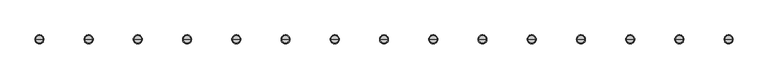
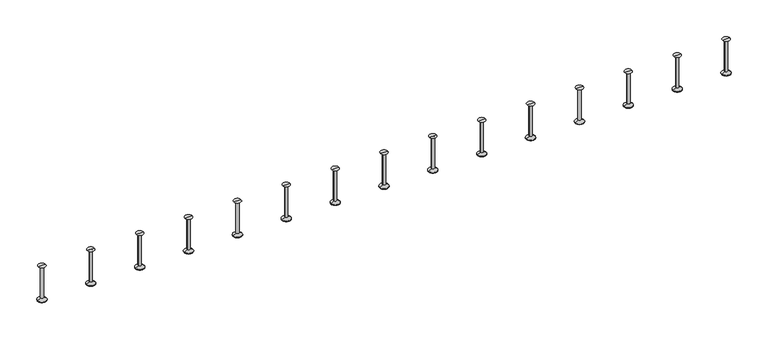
"""IFC4 building model written with IfcOpenShell, lengths in millimetres: fastener geometry, JXA(-PC) JORDAHL® toothed channels : JXA(-PC) L=6000 mm."""

from ifc_helpers import new_model, si_unit, frame, origin, place, context, project, spatial, polyline, circle_curve, source, transform, mapped, element, save
from ifc_brep_helpers import plane_surface, cylinder_surface, revolved_surface, advanced_brep


def fastener_2c23095b(model_context):
    return source(origin(), model_context, "Body", "AdvancedBrep", [
        advanced_brep(
        [(5767.3333333, 0.0, -20.0), (5781.8333333, 0.0, -20.0), (5752.8333333, 0.0, -20.0), (5749.3333333, 0.0, -166.0), (5785.3333333, 0.0, -166.0), (5767.3333333, 0.0, -166.0), (5749.3333333, 0.0, -164.0), (5785.3333333, 0.0, -164.0), (5761.3333333, 0.0, -157.0717968), (5773.3333333, 0.0, -157.0717968), (5761.3333333, 0.0, -22.5), (5773.3333333, 0.0, -22.5)],
        [
            (0, 1),
            (1, 2, circle_curve(frame((5767.3333333, 0.0, -20.0), z_axis=(0.0, 0.0, 1.0), x_axis=(1.0, 0.0, 0.0)), 14.5)),
            (2, 0),
            (2, 1, circle_curve(frame((5767.3333333, 0.0, -20.0), z_axis=(0.0, 0.0, 1.0), x_axis=(1.0, 0.0, 0.0)), 14.5)),
            (3, 4, circle_curve(frame((5767.3333333, 0.0, -166.0), z_axis=(0.0, 0.0, -1.0), x_axis=(1.0, 0.0, 0.0)), 18.0)),
            (4, 5),
            (5, 3),
            (4, 3, circle_curve(frame((5767.3333333, 0.0, -166.0), z_axis=(0.0, 0.0, -1.0), x_axis=(1.0, 0.0, 0.0)), 18.0)),
            (6, 7, circle_curve(frame((5767.3333333, 0.0, -164.0), z_axis=(0.0, 0.0, -1.0), x_axis=(1.0, 0.0, 0.0)), 18.0)),
            (7, 4),
            (3, 6),
            (7, 6, circle_curve(frame((5767.3333333, 0.0, -164.0), z_axis=(0.0, 0.0, -1.0), x_axis=(1.0, 0.0, 0.0)), 18.0)),
            (8, 9, circle_curve(frame((5767.3333333, 0.0, -157.0717968), z_axis=(0.0, 0.0, -1.0), x_axis=(1.0, 0.0, 0.0)), 6.0)),
            (9, 7),
            (6, 8),
            (9, 8, circle_curve(frame((5767.3333333, 0.0, -157.0717968), z_axis=(0.0, 0.0, -1.0), x_axis=(1.0, 0.0, 0.0)), 6.0)),
            (10, 11, circle_curve(frame((5767.3333333, 0.0, -22.5), z_axis=(0.0, 0.0, -1.0), x_axis=(1.0, 0.0, 0.0)), 6.0)),
            (11, 9),
            (8, 10),
            (11, 10, circle_curve(frame((5767.3333333, 0.0, -22.5), z_axis=(0.0, 0.0, -1.0), x_axis=(1.0, 0.0, 0.0)), 6.0)),
            (1, 11),
            (10, 2),
        ],
        [
            plane_surface(frame((5767.3333333, 0.0, -20.0), z_axis=(0.0, 0.0, 1.0), x_axis=(1.0, 0.0, 0.0))),
            plane_surface(frame((5767.3333333, 0.0, -166.0), z_axis=(0.0, 0.0, -1.0), x_axis=(1.0, 0.0, 0.0))),
            cylinder_surface(frame((5767.3333333, 0.0, 2214.3150031), z_axis=(0.0, 0.0, 1.0), x_axis=(1.0, 0.0, 0.0)), 18.0),
            revolved_surface(polyline([(5785.3333333, 0.0, -164.0), (5773.3333333, 0.0, -157.0717968)]), (5767.3333333, 0.0, 2214.3150031), (0.0, 0.0, 1.0)),
            cylinder_surface(frame((5767.3333333, 0.0, 2214.3150031), z_axis=(0.0, 0.0, 1.0), x_axis=(1.0, 0.0, 0.0)), 6.0),
            revolved_surface(polyline([(5773.3333333, 0.0, -22.5), (5781.8333333, 0.0, -20.0)]), (5767.3333333, 0.0, 2214.3150031), (0.0, 0.0, 1.0)),
        ],
        [
            (0, [[1, 2, 3]]),
            (0, [[-3, 4, -1]]),
            (1, [[5, 6, 7]]),
            (1, [[8, -7, -6]]),
            (2, [[9, 10, -5, 11]]),
            (2, [[12, -11, -8, -10]]),
            (3, [[13, 14, -9, 15]]),
            (3, [[16, -15, -12, -14]]),
            (4, [[17, 18, -13, 19]]),
            (4, [[20, -19, -16, -18]]),
            (5, [[-2, 21, -17, 22]]),
            (5, [[-4, -22, -20, -21]]),
        ],
    ),
        advanced_brep(
        [(5569.6666667, 0.0, -20.0), (5584.1666667, 0.0, -20.0), (5555.1666667, 0.0, -20.0), (5551.6666667, 0.0, -166.0), (5587.6666667, 0.0, -166.0), (5569.6666667, 0.0, -166.0), (5551.6666667, 0.0, -164.0), (5587.6666667, 0.0, -164.0), (5563.6666667, 0.0, -157.0717968), (5575.6666667, 0.0, -157.0717968), (5563.6666667, 0.0, -22.5), (5575.6666667, 0.0, -22.5)],
        [
            (0, 1),
            (1, 2, circle_curve(frame((5569.6666667, 0.0, -20.0), z_axis=(0.0, 0.0, 1.0), x_axis=(1.0, 0.0, 0.0)), 14.5)),
            (2, 0),
            (2, 1, circle_curve(frame((5569.6666667, 0.0, -20.0), z_axis=(0.0, 0.0, 1.0), x_axis=(1.0, 0.0, 0.0)), 14.5)),
            (3, 4, circle_curve(frame((5569.6666667, 0.0, -166.0), z_axis=(0.0, 0.0, -1.0), x_axis=(1.0, 0.0, 0.0)), 18.0)),
            (4, 5),
            (5, 3),
            (4, 3, circle_curve(frame((5569.6666667, 0.0, -166.0), z_axis=(0.0, 0.0, -1.0), x_axis=(1.0, 0.0, 0.0)), 18.0)),
            (6, 7, circle_curve(frame((5569.6666667, 0.0, -164.0), z_axis=(0.0, 0.0, -1.0), x_axis=(1.0, 0.0, 0.0)), 18.0)),
            (7, 4),
            (3, 6),
            (7, 6, circle_curve(frame((5569.6666667, 0.0, -164.0), z_axis=(0.0, 0.0, -1.0), x_axis=(1.0, 0.0, 0.0)), 18.0)),
            (8, 9, circle_curve(frame((5569.6666667, 0.0, -157.0717968), z_axis=(0.0, 0.0, -1.0), x_axis=(1.0, 0.0, 0.0)), 6.0)),
            (9, 7),
            (6, 8),
            (9, 8, circle_curve(frame((5569.6666667, 0.0, -157.0717968), z_axis=(0.0, 0.0, -1.0), x_axis=(1.0, 0.0, 0.0)), 6.0)),
            (10, 11, circle_curve(frame((5569.6666667, 0.0, -22.5), z_axis=(0.0, 0.0, -1.0), x_axis=(1.0, 0.0, 0.0)), 6.0)),
            (11, 9),
            (8, 10),
            (11, 10, circle_curve(frame((5569.6666667, 0.0, -22.5), z_axis=(0.0, 0.0, -1.0), x_axis=(1.0, 0.0, 0.0)), 6.0)),
            (1, 11),
            (10, 2),
        ],
        [
            plane_surface(frame((5569.6666667, 0.0, -20.0), z_axis=(0.0, 0.0, 1.0), x_axis=(1.0, 0.0, 0.0))),
            plane_surface(frame((5569.6666667, 0.0, -166.0), z_axis=(0.0, 0.0, -1.0), x_axis=(1.0, 0.0, 0.0))),
            cylinder_surface(frame((5569.6666667, 0.0, 2214.3150031), z_axis=(0.0, 0.0, 1.0), x_axis=(1.0, 0.0, 0.0)), 18.0),
            revolved_surface(polyline([(5587.6666667, 0.0, -164.0), (5575.6666667, 0.0, -157.0717968)]), (5569.6666667, 0.0, 2214.3150031), (0.0, 0.0, 1.0)),
            cylinder_surface(frame((5569.6666667, 0.0, 2214.3150031), z_axis=(0.0, 0.0, 1.0), x_axis=(1.0, 0.0, 0.0)), 6.0),
            revolved_surface(polyline([(5575.6666667, 0.0, -22.5), (5584.1666667, 0.0, -20.0)]), (5569.6666667, 0.0, 2214.3150031), (0.0, 0.0, 1.0)),
        ],
        [
            (0, [[1, 2, 3]]),
            (0, [[-3, 4, -1]]),
            (1, [[5, 6, 7]]),
            (1, [[8, -7, -6]]),
            (2, [[9, 10, -5, 11]]),
            (2, [[12, -11, -8, -10]]),
            (3, [[13, 14, -9, 15]]),
            (3, [[16, -15, -12, -14]]),
            (4, [[17, 18, -13, 19]]),
            (4, [[20, -19, -16, -18]]),
            (5, [[-2, 21, -17, 22]]),
            (5, [[-4, -22, -20, -21]]),
        ],
    ),
        advanced_brep(
        [(5372.0, 0.0, -20.0), (5386.5, 0.0, -20.0), (5357.5, 0.0, -20.0), (5354.0, 0.0, -166.0), (5390.0, 0.0, -166.0), (5372.0, 0.0, -166.0), (5354.0, 0.0, -164.0), (5390.0, 0.0, -164.0), (5366.0, 0.0, -157.0717968), (5378.0, 0.0, -157.0717968), (5366.0, 0.0, -22.5), (5378.0, 0.0, -22.5)],
        [
            (0, 1),
            (1, 2, circle_curve(frame((5372.0, 0.0, -20.0), z_axis=(0.0, 0.0, 1.0), x_axis=(1.0, 0.0, 0.0)), 14.5)),
            (2, 0),
            (2, 1, circle_curve(frame((5372.0, 0.0, -20.0), z_axis=(0.0, 0.0, 1.0), x_axis=(1.0, 0.0, 0.0)), 14.5)),
            (3, 4, circle_curve(frame((5372.0, 0.0, -166.0), z_axis=(0.0, 0.0, -1.0), x_axis=(1.0, 0.0, 0.0)), 18.0)),
            (4, 5),
            (5, 3),
            (4, 3, circle_curve(frame((5372.0, 0.0, -166.0), z_axis=(0.0, 0.0, -1.0), x_axis=(1.0, 0.0, 0.0)), 18.0)),
            (6, 7, circle_curve(frame((5372.0, 0.0, -164.0), z_axis=(0.0, 0.0, -1.0), x_axis=(1.0, 0.0, 0.0)), 18.0)),
            (7, 4),
            (3, 6),
            (7, 6, circle_curve(frame((5372.0, 0.0, -164.0), z_axis=(0.0, 0.0, -1.0), x_axis=(1.0, 0.0, 0.0)), 18.0)),
            (8, 9, circle_curve(frame((5372.0, 0.0, -157.0717968), z_axis=(0.0, 0.0, -1.0), x_axis=(1.0, 0.0, 0.0)), 6.0)),
            (9, 7),
            (6, 8),
            (9, 8, circle_curve(frame((5372.0, 0.0, -157.0717968), z_axis=(0.0, 0.0, -1.0), x_axis=(1.0, 0.0, 0.0)), 6.0)),
            (10, 11, circle_curve(frame((5372.0, 0.0, -22.5), z_axis=(0.0, 0.0, -1.0), x_axis=(1.0, 0.0, 0.0)), 6.0)),
            (11, 9),
            (8, 10),
            (11, 10, circle_curve(frame((5372.0, 0.0, -22.5), z_axis=(0.0, 0.0, -1.0), x_axis=(1.0, 0.0, 0.0)), 6.0)),
            (1, 11),
            (10, 2),
        ],
        [
            plane_surface(frame((5372.0, 0.0, -20.0), z_axis=(0.0, 0.0, 1.0), x_axis=(1.0, 0.0, 0.0))),
            plane_surface(frame((5372.0, 0.0, -166.0), z_axis=(0.0, 0.0, -1.0), x_axis=(1.0, 0.0, 0.0))),
            cylinder_surface(frame((5372.0, 0.0, 2214.3150031), z_axis=(0.0, 0.0, 1.0), x_axis=(1.0, 0.0, 0.0)), 18.0),
            revolved_surface(polyline([(5390.0, 0.0, -164.0), (5378.0, 0.0, -157.0717968)]), (5372.0, 0.0, 2214.3150031), (0.0, 0.0, 1.0)),
            cylinder_surface(frame((5372.0, 0.0, 2214.3150031), z_axis=(0.0, 0.0, 1.0), x_axis=(1.0, 0.0, 0.0)), 6.0),
            revolved_surface(polyline([(5378.0, 0.0, -22.5), (5386.5, 0.0, -20.0)]), (5372.0, 0.0, 2214.3150031), (0.0, 0.0, 1.0)),
        ],
        [
            (0, [[1, 2, 3]]),
            (0, [[-3, 4, -1]]),
            (1, [[5, 6, 7]]),
            (1, [[8, -7, -6]]),
            (2, [[9, 10, -5, 11]]),
            (2, [[12, -11, -8, -10]]),
            (3, [[13, 14, -9, 15]]),
            (3, [[16, -15, -12, -14]]),
            (4, [[17, 18, -13, 19]]),
            (4, [[20, -19, -16, -18]]),
            (5, [[-2, 21, -17, 22]]),
            (5, [[-4, -22, -20, -21]]),
        ],
    ),
        advanced_brep(
        [(5174.3333333, 0.0, -20.0), (5188.8333333, 0.0, -20.0), (5159.8333333, 0.0, -20.0), (5156.3333333, 0.0, -166.0), (5192.3333333, 0.0, -166.0), (5174.3333333, 0.0, -166.0), (5156.3333333, 0.0, -164.0), (5192.3333333, 0.0, -164.0), (5168.3333333, 0.0, -157.0717968), (5180.3333333, 0.0, -157.0717968), (5168.3333333, 0.0, -22.5), (5180.3333333, 0.0, -22.5)],
        [
            (0, 1),
            (1, 2, circle_curve(frame((5174.3333333, 0.0, -20.0), z_axis=(0.0, 0.0, 1.0), x_axis=(1.0, 0.0, 0.0)), 14.5)),
            (2, 0),
            (2, 1, circle_curve(frame((5174.3333333, 0.0, -20.0), z_axis=(0.0, 0.0, 1.0), x_axis=(1.0, 0.0, 0.0)), 14.5)),
            (3, 4, circle_curve(frame((5174.3333333, 0.0, -166.0), z_axis=(0.0, 0.0, -1.0), x_axis=(1.0, 0.0, 0.0)), 18.0)),
            (4, 5),
            (5, 3),
            (4, 3, circle_curve(frame((5174.3333333, 0.0, -166.0), z_axis=(0.0, 0.0, -1.0), x_axis=(1.0, 0.0, 0.0)), 18.0)),
            (6, 7, circle_curve(frame((5174.3333333, 0.0, -164.0), z_axis=(0.0, 0.0, -1.0), x_axis=(1.0, 0.0, 0.0)), 18.0)),
            (7, 4),
            (3, 6),
            (7, 6, circle_curve(frame((5174.3333333, 0.0, -164.0), z_axis=(0.0, 0.0, -1.0), x_axis=(1.0, 0.0, 0.0)), 18.0)),
            (8, 9, circle_curve(frame((5174.3333333, 0.0, -157.0717968), z_axis=(0.0, 0.0, -1.0), x_axis=(1.0, 0.0, 0.0)), 6.0)),
            (9, 7),
            (6, 8),
            (9, 8, circle_curve(frame((5174.3333333, 0.0, -157.0717968), z_axis=(0.0, 0.0, -1.0), x_axis=(1.0, 0.0, 0.0)), 6.0)),
            (10, 11, circle_curve(frame((5174.3333333, 0.0, -22.5), z_axis=(0.0, 0.0, -1.0), x_axis=(1.0, 0.0, 0.0)), 6.0)),
            (11, 9),
            (8, 10),
            (11, 10, circle_curve(frame((5174.3333333, 0.0, -22.5), z_axis=(0.0, 0.0, -1.0), x_axis=(1.0, 0.0, 0.0)), 6.0)),
            (1, 11),
            (10, 2),
        ],
        [
            plane_surface(frame((5174.3333333, 0.0, -20.0), z_axis=(0.0, 0.0, 1.0), x_axis=(1.0, 0.0, 0.0))),
            plane_surface(frame((5174.3333333, 0.0, -166.0), z_axis=(0.0, 0.0, -1.0), x_axis=(1.0, 0.0, 0.0))),
            cylinder_surface(frame((5174.3333333, 0.0, 2214.3150031), z_axis=(0.0, 0.0, 1.0), x_axis=(1.0, 0.0, 0.0)), 18.0),
            revolved_surface(polyline([(5192.3333333, 0.0, -164.0), (5180.3333333, 0.0, -157.0717968)]), (5174.3333333, 0.0, 2214.3150031), (0.0, 0.0, 1.0)),
            cylinder_surface(frame((5174.3333333, 0.0, 2214.3150031), z_axis=(0.0, 0.0, 1.0), x_axis=(1.0, 0.0, 0.0)), 6.0),
            revolved_surface(polyline([(5180.3333333, 0.0, -22.5), (5188.8333333, 0.0, -20.0)]), (5174.3333333, 0.0, 2214.3150031), (0.0, 0.0, 1.0)),
        ],
        [
            (0, [[1, 2, 3]]),
            (0, [[-3, 4, -1]]),
            (1, [[5, 6, 7]]),
            (1, [[8, -7, -6]]),
            (2, [[9, 10, -5, 11]]),
            (2, [[12, -11, -8, -10]]),
            (3, [[13, 14, -9, 15]]),
            (3, [[16, -15, -12, -14]]),
            (4, [[17, 18, -13, 19]]),
            (4, [[20, -19, -16, -18]]),
            (5, [[-2, 21, -17, 22]]),
            (5, [[-4, -22, -20, -21]]),
        ],
    ),
        advanced_brep(
        [(4976.6666667, 0.0, -20.0), (4991.1666667, 0.0, -20.0), (4962.1666667, 0.0, -20.0), (4958.6666667, 0.0, -166.0), (4994.6666667, 0.0, -166.0), (4976.6666667, 0.0, -166.0), (4958.6666667, 0.0, -164.0), (4994.6666667, 0.0, -164.0), (4970.6666667, 0.0, -157.0717968), (4982.6666667, 0.0, -157.0717968), (4970.6666667, 0.0, -22.5), (4982.6666667, 0.0, -22.5)],
        [
            (0, 1),
            (1, 2, circle_curve(frame((4976.6666667, 0.0, -20.0), z_axis=(0.0, 0.0, 1.0), x_axis=(1.0, 0.0, 0.0)), 14.5)),
            (2, 0),
            (2, 1, circle_curve(frame((4976.6666667, 0.0, -20.0), z_axis=(0.0, 0.0, 1.0), x_axis=(1.0, 0.0, 0.0)), 14.5)),
            (3, 4, circle_curve(frame((4976.6666667, 0.0, -166.0), z_axis=(0.0, 0.0, -1.0), x_axis=(1.0, 0.0, 0.0)), 18.0)),
            (4, 5),
            (5, 3),
            (4, 3, circle_curve(frame((4976.6666667, 0.0, -166.0), z_axis=(0.0, 0.0, -1.0), x_axis=(1.0, 0.0, 0.0)), 18.0)),
            (6, 7, circle_curve(frame((4976.6666667, 0.0, -164.0), z_axis=(0.0, 0.0, -1.0), x_axis=(1.0, 0.0, 0.0)), 18.0)),
            (7, 4),
            (3, 6),
            (7, 6, circle_curve(frame((4976.6666667, 0.0, -164.0), z_axis=(0.0, 0.0, -1.0), x_axis=(1.0, 0.0, 0.0)), 18.0)),
            (8, 9, circle_curve(frame((4976.6666667, 0.0, -157.0717968), z_axis=(0.0, 0.0, -1.0), x_axis=(1.0, 0.0, 0.0)), 6.0)),
            (9, 7),
            (6, 8),
            (9, 8, circle_curve(frame((4976.6666667, 0.0, -157.0717968), z_axis=(0.0, 0.0, -1.0), x_axis=(1.0, 0.0, 0.0)), 6.0)),
            (10, 11, circle_curve(frame((4976.6666667, 0.0, -22.5), z_axis=(0.0, 0.0, -1.0), x_axis=(1.0, 0.0, 0.0)), 6.0)),
            (11, 9),
            (8, 10),
            (11, 10, circle_curve(frame((4976.6666667, 0.0, -22.5), z_axis=(0.0, 0.0, -1.0), x_axis=(1.0, 0.0, 0.0)), 6.0)),
            (1, 11),
            (10, 2),
        ],
        [
            plane_surface(frame((4976.6666667, 0.0, -20.0), z_axis=(0.0, 0.0, 1.0), x_axis=(1.0, 0.0, 0.0))),
            plane_surface(frame((4976.6666667, 0.0, -166.0), z_axis=(0.0, 0.0, -1.0), x_axis=(1.0, 0.0, 0.0))),
            cylinder_surface(frame((4976.6666667, 0.0, 2214.3150031), z_axis=(0.0, 0.0, 1.0), x_axis=(1.0, 0.0, 0.0)), 18.0),
            revolved_surface(polyline([(4994.6666667, 0.0, -164.0), (4982.6666667, 0.0, -157.0717968)]), (4976.6666667, 0.0, 2214.3150031), (0.0, 0.0, 1.0)),
            cylinder_surface(frame((4976.6666667, 0.0, 2214.3150031), z_axis=(0.0, 0.0, 1.0), x_axis=(1.0, 0.0, 0.0)), 6.0),
            revolved_surface(polyline([(4982.6666667, 0.0, -22.5), (4991.1666667, 0.0, -20.0)]), (4976.6666667, 0.0, 2214.3150031), (0.0, 0.0, 1.0)),
        ],
        [
            (0, [[1, 2, 3]]),
            (0, [[-3, 4, -1]]),
            (1, [[5, 6, 7]]),
            (1, [[8, -7, -6]]),
            (2, [[9, 10, -5, 11]]),
            (2, [[12, -11, -8, -10]]),
            (3, [[13, 14, -9, 15]]),
            (3, [[16, -15, -12, -14]]),
            (4, [[17, 18, -13, 19]]),
            (4, [[20, -19, -16, -18]]),
            (5, [[-2, 21, -17, 22]]),
            (5, [[-4, -22, -20, -21]]),
        ],
    ),
        advanced_brep(
        [(4779.0, 0.0, -20.0), (4793.5, 0.0, -20.0), (4764.5, 0.0, -20.0), (4761.0, 0.0, -166.0), (4797.0, 0.0, -166.0), (4779.0, 0.0, -166.0), (4761.0, 0.0, -164.0), (4797.0, 0.0, -164.0), (4773.0, 0.0, -157.0717968), (4785.0, 0.0, -157.0717968), (4773.0, 0.0, -22.5), (4785.0, 0.0, -22.5)],
        [
            (0, 1),
            (1, 2, circle_curve(frame((4779.0, 0.0, -20.0), z_axis=(0.0, 0.0, 1.0), x_axis=(1.0, 0.0, 0.0)), 14.5)),
            (2, 0),
            (2, 1, circle_curve(frame((4779.0, 0.0, -20.0), z_axis=(0.0, 0.0, 1.0), x_axis=(1.0, 0.0, 0.0)), 14.5)),
            (3, 4, circle_curve(frame((4779.0, 0.0, -166.0), z_axis=(0.0, 0.0, -1.0), x_axis=(1.0, 0.0, 0.0)), 18.0)),
            (4, 5),
            (5, 3),
            (4, 3, circle_curve(frame((4779.0, 0.0, -166.0), z_axis=(0.0, 0.0, -1.0), x_axis=(1.0, 0.0, 0.0)), 18.0)),
            (6, 7, circle_curve(frame((4779.0, 0.0, -164.0), z_axis=(0.0, 0.0, -1.0), x_axis=(1.0, 0.0, 0.0)), 18.0)),
            (7, 4),
            (3, 6),
            (7, 6, circle_curve(frame((4779.0, 0.0, -164.0), z_axis=(0.0, 0.0, -1.0), x_axis=(1.0, 0.0, 0.0)), 18.0)),
            (8, 9, circle_curve(frame((4779.0, 0.0, -157.0717968), z_axis=(0.0, 0.0, -1.0), x_axis=(1.0, 0.0, 0.0)), 6.0)),
            (9, 7),
            (6, 8),
            (9, 8, circle_curve(frame((4779.0, 0.0, -157.0717968), z_axis=(0.0, 0.0, -1.0), x_axis=(1.0, 0.0, 0.0)), 6.0)),
            (10, 11, circle_curve(frame((4779.0, 0.0, -22.5), z_axis=(0.0, 0.0, -1.0), x_axis=(1.0, 0.0, 0.0)), 6.0)),
            (11, 9),
            (8, 10),
            (11, 10, circle_curve(frame((4779.0, 0.0, -22.5), z_axis=(0.0, 0.0, -1.0), x_axis=(1.0, 0.0, 0.0)), 6.0)),
            (1, 11),
            (10, 2),
        ],
        [
            plane_surface(frame((4779.0, 0.0, -20.0), z_axis=(0.0, 0.0, 1.0), x_axis=(1.0, 0.0, 0.0))),
            plane_surface(frame((4779.0, 0.0, -166.0), z_axis=(0.0, 0.0, -1.0), x_axis=(1.0, 0.0, 0.0))),
            cylinder_surface(frame((4779.0, 0.0, 2214.3150031), z_axis=(0.0, 0.0, 1.0), x_axis=(1.0, 0.0, 0.0)), 18.0),
            revolved_surface(polyline([(4797.0, 0.0, -164.0), (4785.0, 0.0, -157.0717968)]), (4779.0, 0.0, 2214.3150031), (0.0, 0.0, 1.0)),
            cylinder_surface(frame((4779.0, 0.0, 2214.3150031), z_axis=(0.0, 0.0, 1.0), x_axis=(1.0, 0.0, 0.0)), 6.0),
            revolved_surface(polyline([(4785.0, 0.0, -22.5), (4793.5, 0.0, -20.0)]), (4779.0, 0.0, 2214.3150031), (0.0, 0.0, 1.0)),
        ],
        [
            (0, [[1, 2, 3]]),
            (0, [[-3, 4, -1]]),
            (1, [[5, 6, 7]]),
            (1, [[8, -7, -6]]),
            (2, [[9, 10, -5, 11]]),
            (2, [[12, -11, -8, -10]]),
            (3, [[13, 14, -9, 15]]),
            (3, [[16, -15, -12, -14]]),
            (4, [[17, 18, -13, 19]]),
            (4, [[20, -19, -16, -18]]),
            (5, [[-2, 21, -17, 22]]),
            (5, [[-4, -22, -20, -21]]),
        ],
    ),
        advanced_brep(
        [(4581.3333333, 0.0, -20.0), (4595.8333333, 0.0, -20.0), (4566.8333333, 0.0, -20.0), (4563.3333333, 0.0, -166.0), (4599.3333333, 0.0, -166.0), (4581.3333333, 0.0, -166.0), (4563.3333333, 0.0, -164.0), (4599.3333333, 0.0, -164.0), (4575.3333333, 0.0, -157.0717968), (4587.3333333, 0.0, -157.0717968), (4575.3333333, 0.0, -22.5), (4587.3333333, 0.0, -22.5)],
        [
            (0, 1),
            (1, 2, circle_curve(frame((4581.3333333, 0.0, -20.0), z_axis=(0.0, 0.0, 1.0), x_axis=(1.0, 0.0, 0.0)), 14.5)),
            (2, 0),
            (2, 1, circle_curve(frame((4581.3333333, 0.0, -20.0), z_axis=(0.0, 0.0, 1.0), x_axis=(1.0, 0.0, 0.0)), 14.5)),
            (3, 4, circle_curve(frame((4581.3333333, 0.0, -166.0), z_axis=(0.0, 0.0, -1.0), x_axis=(1.0, 0.0, 0.0)), 18.0)),
            (4, 5),
            (5, 3),
            (4, 3, circle_curve(frame((4581.3333333, 0.0, -166.0), z_axis=(0.0, 0.0, -1.0), x_axis=(1.0, 0.0, 0.0)), 18.0)),
            (6, 7, circle_curve(frame((4581.3333333, 0.0, -164.0), z_axis=(0.0, 0.0, -1.0), x_axis=(1.0, 0.0, 0.0)), 18.0)),
            (7, 4),
            (3, 6),
            (7, 6, circle_curve(frame((4581.3333333, 0.0, -164.0), z_axis=(0.0, 0.0, -1.0), x_axis=(1.0, 0.0, 0.0)), 18.0)),
            (8, 9, circle_curve(frame((4581.3333333, 0.0, -157.0717968), z_axis=(0.0, 0.0, -1.0), x_axis=(1.0, 0.0, 0.0)), 6.0)),
            (9, 7),
            (6, 8),
            (9, 8, circle_curve(frame((4581.3333333, 0.0, -157.0717968), z_axis=(0.0, 0.0, -1.0), x_axis=(1.0, 0.0, 0.0)), 6.0)),
            (10, 11, circle_curve(frame((4581.3333333, 0.0, -22.5), z_axis=(0.0, 0.0, -1.0), x_axis=(1.0, 0.0, 0.0)), 6.0)),
            (11, 9),
            (8, 10),
            (11, 10, circle_curve(frame((4581.3333333, 0.0, -22.5), z_axis=(0.0, 0.0, -1.0), x_axis=(1.0, 0.0, 0.0)), 6.0)),
            (1, 11),
            (10, 2),
        ],
        [
            plane_surface(frame((4581.3333333, 0.0, -20.0), z_axis=(0.0, 0.0, 1.0), x_axis=(1.0, 0.0, 0.0))),
            plane_surface(frame((4581.3333333, 0.0, -166.0), z_axis=(0.0, 0.0, -1.0), x_axis=(1.0, 0.0, 0.0))),
            cylinder_surface(frame((4581.3333333, 0.0, 2214.3150031), z_axis=(0.0, 0.0, 1.0), x_axis=(1.0, 0.0, 0.0)), 18.0),
            revolved_surface(polyline([(4599.3333333, 0.0, -164.0), (4587.3333333, 0.0, -157.0717968)]), (4581.3333333, 0.0, 2214.3150031), (0.0, 0.0, 1.0)),
            cylinder_surface(frame((4581.3333333, 0.0, 2214.3150031), z_axis=(0.0, 0.0, 1.0), x_axis=(1.0, 0.0, 0.0)), 6.0),
            revolved_surface(polyline([(4587.3333333, 0.0, -22.5), (4595.8333333, 0.0, -20.0)]), (4581.3333333, 0.0, 2214.3150031), (0.0, 0.0, 1.0)),
        ],
        [
            (0, [[1, 2, 3]]),
            (0, [[-3, 4, -1]]),
            (1, [[5, 6, 7]]),
            (1, [[8, -7, -6]]),
            (2, [[9, 10, -5, 11]]),
            (2, [[12, -11, -8, -10]]),
            (3, [[13, 14, -9, 15]]),
            (3, [[16, -15, -12, -14]]),
            (4, [[17, 18, -13, 19]]),
            (4, [[20, -19, -16, -18]]),
            (5, [[-2, 21, -17, 22]]),
            (5, [[-4, -22, -20, -21]]),
        ],
    ),
        advanced_brep(
        [(4383.6666667, 0.0, -20.0), (4398.1666667, 0.0, -20.0), (4369.1666667, 0.0, -20.0), (4365.6666667, 0.0, -166.0), (4401.6666667, 0.0, -166.0), (4383.6666667, 0.0, -166.0), (4365.6666667, 0.0, -164.0), (4401.6666667, 0.0, -164.0), (4377.6666667, 0.0, -157.0717968), (4389.6666667, 0.0, -157.0717968), (4377.6666667, 0.0, -22.5), (4389.6666667, 0.0, -22.5)],
        [
            (0, 1),
            (1, 2, circle_curve(frame((4383.6666667, 0.0, -20.0), z_axis=(0.0, 0.0, 1.0), x_axis=(1.0, 0.0, 0.0)), 14.5)),
            (2, 0),
            (2, 1, circle_curve(frame((4383.6666667, 0.0, -20.0), z_axis=(0.0, 0.0, 1.0), x_axis=(1.0, 0.0, 0.0)), 14.5)),
            (3, 4, circle_curve(frame((4383.6666667, 0.0, -166.0), z_axis=(0.0, 0.0, -1.0), x_axis=(1.0, 0.0, 0.0)), 18.0)),
            (4, 5),
            (5, 3),
            (4, 3, circle_curve(frame((4383.6666667, 0.0, -166.0), z_axis=(0.0, 0.0, -1.0), x_axis=(1.0, 0.0, 0.0)), 18.0)),
            (6, 7, circle_curve(frame((4383.6666667, 0.0, -164.0), z_axis=(0.0, 0.0, -1.0), x_axis=(1.0, 0.0, 0.0)), 18.0)),
            (7, 4),
            (3, 6),
            (7, 6, circle_curve(frame((4383.6666667, 0.0, -164.0), z_axis=(0.0, 0.0, -1.0), x_axis=(1.0, 0.0, 0.0)), 18.0)),
            (8, 9, circle_curve(frame((4383.6666667, 0.0, -157.0717968), z_axis=(0.0, 0.0, -1.0), x_axis=(1.0, 0.0, 0.0)), 6.0)),
            (9, 7),
            (6, 8),
            (9, 8, circle_curve(frame((4383.6666667, 0.0, -157.0717968), z_axis=(0.0, 0.0, -1.0), x_axis=(1.0, 0.0, 0.0)), 6.0)),
            (10, 11, circle_curve(frame((4383.6666667, 0.0, -22.5), z_axis=(0.0, 0.0, -1.0), x_axis=(1.0, 0.0, 0.0)), 6.0)),
            (11, 9),
            (8, 10),
            (11, 10, circle_curve(frame((4383.6666667, 0.0, -22.5), z_axis=(0.0, 0.0, -1.0), x_axis=(1.0, 0.0, 0.0)), 6.0)),
            (1, 11),
            (10, 2),
        ],
        [
            plane_surface(frame((4383.6666667, 0.0, -20.0), z_axis=(0.0, 0.0, 1.0), x_axis=(1.0, 0.0, 0.0))),
            plane_surface(frame((4383.6666667, 0.0, -166.0), z_axis=(0.0, 0.0, -1.0), x_axis=(1.0, 0.0, 0.0))),
            cylinder_surface(frame((4383.6666667, 0.0, 2214.3150031), z_axis=(0.0, 0.0, 1.0), x_axis=(1.0, 0.0, 0.0)), 18.0),
            revolved_surface(polyline([(4401.6666667, 0.0, -164.0), (4389.6666667, 0.0, -157.0717968)]), (4383.6666667, 0.0, 2214.3150031), (0.0, 0.0, 1.0)),
            cylinder_surface(frame((4383.6666667, 0.0, 2214.3150031), z_axis=(0.0, 0.0, 1.0), x_axis=(1.0, 0.0, 0.0)), 6.0),
            revolved_surface(polyline([(4389.6666667, 0.0, -22.5), (4398.1666667, 0.0, -20.0)]), (4383.6666667, 0.0, 2214.3150031), (0.0, 0.0, 1.0)),
        ],
        [
            (0, [[1, 2, 3]]),
            (0, [[-3, 4, -1]]),
            (1, [[5, 6, 7]]),
            (1, [[8, -7, -6]]),
            (2, [[9, 10, -5, 11]]),
            (2, [[12, -11, -8, -10]]),
            (3, [[13, 14, -9, 15]]),
            (3, [[16, -15, -12, -14]]),
            (4, [[17, 18, -13, 19]]),
            (4, [[20, -19, -16, -18]]),
            (5, [[-2, 21, -17, 22]]),
            (5, [[-4, -22, -20, -21]]),
        ],
    ),
        advanced_brep(
        [(4186.0, 0.0, -20.0), (4200.5, 0.0, -20.0), (4171.5, 0.0, -20.0), (4168.0, 0.0, -166.0), (4204.0, 0.0, -166.0), (4186.0, 0.0, -166.0), (4168.0, 0.0, -164.0), (4204.0, 0.0, -164.0), (4180.0, 0.0, -157.0717968), (4192.0, 0.0, -157.0717968), (4180.0, 0.0, -22.5), (4192.0, 0.0, -22.5)],
        [
            (0, 1),
            (1, 2, circle_curve(frame((4186.0, 0.0, -20.0), z_axis=(0.0, 0.0, 1.0), x_axis=(1.0, 0.0, 0.0)), 14.5)),
            (2, 0),
            (2, 1, circle_curve(frame((4186.0, 0.0, -20.0), z_axis=(0.0, 0.0, 1.0), x_axis=(1.0, 0.0, 0.0)), 14.5)),
            (3, 4, circle_curve(frame((4186.0, 0.0, -166.0), z_axis=(0.0, 0.0, -1.0), x_axis=(1.0, 0.0, 0.0)), 18.0)),
            (4, 5),
            (5, 3),
            (4, 3, circle_curve(frame((4186.0, 0.0, -166.0), z_axis=(0.0, 0.0, -1.0), x_axis=(1.0, 0.0, 0.0)), 18.0)),
            (6, 7, circle_curve(frame((4186.0, 0.0, -164.0), z_axis=(0.0, 0.0, -1.0), x_axis=(1.0, 0.0, 0.0)), 18.0)),
            (7, 4),
            (3, 6),
            (7, 6, circle_curve(frame((4186.0, 0.0, -164.0), z_axis=(0.0, 0.0, -1.0), x_axis=(1.0, 0.0, 0.0)), 18.0)),
            (8, 9, circle_curve(frame((4186.0, 0.0, -157.0717968), z_axis=(0.0, 0.0, -1.0), x_axis=(1.0, 0.0, 0.0)), 6.0)),
            (9, 7),
            (6, 8),
            (9, 8, circle_curve(frame((4186.0, 0.0, -157.0717968), z_axis=(0.0, 0.0, -1.0), x_axis=(1.0, 0.0, 0.0)), 6.0)),
            (10, 11, circle_curve(frame((4186.0, 0.0, -22.5), z_axis=(0.0, 0.0, -1.0), x_axis=(1.0, 0.0, 0.0)), 6.0)),
            (11, 9),
            (8, 10),
            (11, 10, circle_curve(frame((4186.0, 0.0, -22.5), z_axis=(0.0, 0.0, -1.0), x_axis=(1.0, 0.0, 0.0)), 6.0)),
            (1, 11),
            (10, 2),
        ],
        [
            plane_surface(frame((4186.0, 0.0, -20.0), z_axis=(0.0, 0.0, 1.0), x_axis=(1.0, 0.0, 0.0))),
            plane_surface(frame((4186.0, 0.0, -166.0), z_axis=(0.0, 0.0, -1.0), x_axis=(1.0, 0.0, 0.0))),
            cylinder_surface(frame((4186.0, 0.0, 2214.3150031), z_axis=(0.0, 0.0, 1.0), x_axis=(1.0, 0.0, 0.0)), 18.0),
            revolved_surface(polyline([(4204.0, 0.0, -164.0), (4192.0, 0.0, -157.0717968)]), (4186.0, 0.0, 2214.3150031), (0.0, 0.0, 1.0)),
            cylinder_surface(frame((4186.0, 0.0, 2214.3150031), z_axis=(0.0, 0.0, 1.0), x_axis=(1.0, 0.0, 0.0)), 6.0),
            revolved_surface(polyline([(4192.0, 0.0, -22.5), (4200.5, 0.0, -20.0)]), (4186.0, 0.0, 2214.3150031), (0.0, 0.0, 1.0)),
        ],
        [
            (0, [[1, 2, 3]]),
            (0, [[-3, 4, -1]]),
            (1, [[5, 6, 7]]),
            (1, [[8, -7, -6]]),
            (2, [[9, 10, -5, 11]]),
            (2, [[12, -11, -8, -10]]),
            (3, [[13, 14, -9, 15]]),
            (3, [[16, -15, -12, -14]]),
            (4, [[17, 18, -13, 19]]),
            (4, [[20, -19, -16, -18]]),
            (5, [[-2, 21, -17, 22]]),
            (5, [[-4, -22, -20, -21]]),
        ],
    ),
        advanced_brep(
        [(3988.3333333, 0.0, -20.0), (4002.8333333, 0.0, -20.0), (3973.8333333, 0.0, -20.0), (3970.3333333, 0.0, -166.0), (4006.3333333, 0.0, -166.0), (3988.3333333, 0.0, -166.0), (3970.3333333, 0.0, -164.0), (4006.3333333, 0.0, -164.0), (3982.3333333, 0.0, -157.0717968), (3994.3333333, 0.0, -157.0717968), (3982.3333333, 0.0, -22.5), (3994.3333333, 0.0, -22.5)],
        [
            (0, 1),
            (1, 2, circle_curve(frame((3988.3333333, 0.0, -20.0), z_axis=(0.0, 0.0, 1.0), x_axis=(1.0, 0.0, 0.0)), 14.5)),
            (2, 0),
            (2, 1, circle_curve(frame((3988.3333333, 0.0, -20.0), z_axis=(0.0, 0.0, 1.0), x_axis=(1.0, 0.0, 0.0)), 14.5)),
            (3, 4, circle_curve(frame((3988.3333333, 0.0, -166.0), z_axis=(0.0, 0.0, -1.0), x_axis=(1.0, 0.0, 0.0)), 18.0)),
            (4, 5),
            (5, 3),
            (4, 3, circle_curve(frame((3988.3333333, 0.0, -166.0), z_axis=(0.0, 0.0, -1.0), x_axis=(1.0, 0.0, 0.0)), 18.0)),
            (6, 7, circle_curve(frame((3988.3333333, 0.0, -164.0), z_axis=(0.0, 0.0, -1.0), x_axis=(1.0, 0.0, 0.0)), 18.0)),
            (7, 4),
            (3, 6),
            (7, 6, circle_curve(frame((3988.3333333, 0.0, -164.0), z_axis=(0.0, 0.0, -1.0), x_axis=(1.0, 0.0, 0.0)), 18.0)),
            (8, 9, circle_curve(frame((3988.3333333, 0.0, -157.0717968), z_axis=(0.0, 0.0, -1.0), x_axis=(1.0, 0.0, 0.0)), 6.0)),
            (9, 7),
            (6, 8),
            (9, 8, circle_curve(frame((3988.3333333, 0.0, -157.0717968), z_axis=(0.0, 0.0, -1.0), x_axis=(1.0, 0.0, 0.0)), 6.0)),
            (10, 11, circle_curve(frame((3988.3333333, 0.0, -22.5), z_axis=(0.0, 0.0, -1.0), x_axis=(1.0, 0.0, 0.0)), 6.0)),
            (11, 9),
            (8, 10),
            (11, 10, circle_curve(frame((3988.3333333, 0.0, -22.5), z_axis=(0.0, 0.0, -1.0), x_axis=(1.0, 0.0, 0.0)), 6.0)),
            (1, 11),
            (10, 2),
        ],
        [
            plane_surface(frame((3988.3333333, 0.0, -20.0), z_axis=(0.0, 0.0, 1.0), x_axis=(1.0, 0.0, 0.0))),
            plane_surface(frame((3988.3333333, 0.0, -166.0), z_axis=(0.0, 0.0, -1.0), x_axis=(1.0, 0.0, 0.0))),
            cylinder_surface(frame((3988.3333333, 0.0, 2214.3150031), z_axis=(0.0, 0.0, 1.0), x_axis=(1.0, 0.0, 0.0)), 18.0),
            revolved_surface(polyline([(4006.3333333, 0.0, -164.0), (3994.3333333, 0.0, -157.0717968)]), (3988.3333333, 0.0, 2214.3150031), (0.0, 0.0, 1.0)),
            cylinder_surface(frame((3988.3333333, 0.0, 2214.3150031), z_axis=(0.0, 0.0, 1.0), x_axis=(1.0, 0.0, 0.0)), 6.0),
            revolved_surface(polyline([(3994.3333333, 0.0, -22.5), (4002.8333333, 0.0, -20.0)]), (3988.3333333, 0.0, 2214.3150031), (0.0, 0.0, 1.0)),
        ],
        [
            (0, [[1, 2, 3]]),
            (0, [[-3, 4, -1]]),
            (1, [[5, 6, 7]]),
            (1, [[8, -7, -6]]),
            (2, [[9, 10, -5, 11]]),
            (2, [[12, -11, -8, -10]]),
            (3, [[13, 14, -9, 15]]),
            (3, [[16, -15, -12, -14]]),
            (4, [[17, 18, -13, 19]]),
            (4, [[20, -19, -16, -18]]),
            (5, [[-2, 21, -17, 22]]),
            (5, [[-4, -22, -20, -21]]),
        ],
    ),
        advanced_brep(
        [(3790.6666667, 0.0, -20.0), (3805.1666667, 0.0, -20.0), (3776.1666667, 0.0, -20.0), (3772.6666667, 0.0, -166.0), (3808.6666667, 0.0, -166.0), (3790.6666667, 0.0, -166.0), (3772.6666667, 0.0, -164.0), (3808.6666667, 0.0, -164.0), (3784.6666667, 0.0, -157.0717968), (3796.6666667, 0.0, -157.0717968), (3784.6666667, 0.0, -22.5), (3796.6666667, 0.0, -22.5)],
        [
            (0, 1),
            (1, 2, circle_curve(frame((3790.6666667, 0.0, -20.0), z_axis=(0.0, 0.0, 1.0), x_axis=(1.0, 0.0, 0.0)), 14.5)),
            (2, 0),
            (2, 1, circle_curve(frame((3790.6666667, 0.0, -20.0), z_axis=(0.0, 0.0, 1.0), x_axis=(1.0, 0.0, 0.0)), 14.5)),
            (3, 4, circle_curve(frame((3790.6666667, 0.0, -166.0), z_axis=(0.0, 0.0, -1.0), x_axis=(1.0, 0.0, 0.0)), 18.0)),
            (4, 5),
            (5, 3),
            (4, 3, circle_curve(frame((3790.6666667, 0.0, -166.0), z_axis=(0.0, 0.0, -1.0), x_axis=(1.0, 0.0, 0.0)), 18.0)),
            (6, 7, circle_curve(frame((3790.6666667, 0.0, -164.0), z_axis=(0.0, 0.0, -1.0), x_axis=(1.0, 0.0, 0.0)), 18.0)),
            (7, 4),
            (3, 6),
            (7, 6, circle_curve(frame((3790.6666667, 0.0, -164.0), z_axis=(0.0, 0.0, -1.0), x_axis=(1.0, 0.0, 0.0)), 18.0)),
            (8, 9, circle_curve(frame((3790.6666667, 0.0, -157.0717968), z_axis=(0.0, 0.0, -1.0), x_axis=(1.0, 0.0, 0.0)), 6.0)),
            (9, 7),
            (6, 8),
            (9, 8, circle_curve(frame((3790.6666667, 0.0, -157.0717968), z_axis=(0.0, 0.0, -1.0), x_axis=(1.0, 0.0, 0.0)), 6.0)),
            (10, 11, circle_curve(frame((3790.6666667, 0.0, -22.5), z_axis=(0.0, 0.0, -1.0), x_axis=(1.0, 0.0, 0.0)), 6.0)),
            (11, 9),
            (8, 10),
            (11, 10, circle_curve(frame((3790.6666667, 0.0, -22.5), z_axis=(0.0, 0.0, -1.0), x_axis=(1.0, 0.0, 0.0)), 6.0)),
            (1, 11),
            (10, 2),
        ],
        [
            plane_surface(frame((3790.6666667, 0.0, -20.0), z_axis=(0.0, 0.0, 1.0), x_axis=(1.0, 0.0, 0.0))),
            plane_surface(frame((3790.6666667, 0.0, -166.0), z_axis=(0.0, 0.0, -1.0), x_axis=(1.0, 0.0, 0.0))),
            cylinder_surface(frame((3790.6666667, 0.0, 2214.3150031), z_axis=(0.0, 0.0, 1.0), x_axis=(1.0, 0.0, 0.0)), 18.0),
            revolved_surface(polyline([(3808.6666667, 0.0, -164.0), (3796.6666667, 0.0, -157.0717968)]), (3790.6666667, 0.0, 2214.3150031), (0.0, 0.0, 1.0)),
            cylinder_surface(frame((3790.6666667, 0.0, 2214.3150031), z_axis=(0.0, 0.0, 1.0), x_axis=(1.0, 0.0, 0.0)), 6.0),
            revolved_surface(polyline([(3796.6666667, 0.0, -22.5), (3805.1666667, 0.0, -20.0)]), (3790.6666667, 0.0, 2214.3150031), (0.0, 0.0, 1.0)),
        ],
        [
            (0, [[1, 2, 3]]),
            (0, [[-3, 4, -1]]),
            (1, [[5, 6, 7]]),
            (1, [[8, -7, -6]]),
            (2, [[9, 10, -5, 11]]),
            (2, [[12, -11, -8, -10]]),
            (3, [[13, 14, -9, 15]]),
            (3, [[16, -15, -12, -14]]),
            (4, [[17, 18, -13, 19]]),
            (4, [[20, -19, -16, -18]]),
            (5, [[-2, 21, -17, 22]]),
            (5, [[-4, -22, -20, -21]]),
        ],
    ),
        advanced_brep(
        [(3593.0, 0.0, -20.0), (3607.5, 0.0, -20.0), (3578.5, 0.0, -20.0), (3575.0, 0.0, -166.0), (3611.0, 0.0, -166.0), (3593.0, 0.0, -166.0), (3575.0, 0.0, -164.0), (3611.0, 0.0, -164.0), (3587.0, 0.0, -157.0717968), (3599.0, 0.0, -157.0717968), (3587.0, 0.0, -22.5), (3599.0, 0.0, -22.5)],
        [
            (0, 1),
            (1, 2, circle_curve(frame((3593.0, 0.0, -20.0), z_axis=(0.0, 0.0, 1.0), x_axis=(1.0, 0.0, 0.0)), 14.5)),
            (2, 0),
            (2, 1, circle_curve(frame((3593.0, 0.0, -20.0), z_axis=(0.0, 0.0, 1.0), x_axis=(1.0, 0.0, 0.0)), 14.5)),
            (3, 4, circle_curve(frame((3593.0, 0.0, -166.0), z_axis=(0.0, 0.0, -1.0), x_axis=(1.0, 0.0, 0.0)), 18.0)),
            (4, 5),
            (5, 3),
            (4, 3, circle_curve(frame((3593.0, 0.0, -166.0), z_axis=(0.0, 0.0, -1.0), x_axis=(1.0, 0.0, 0.0)), 18.0)),
            (6, 7, circle_curve(frame((3593.0, 0.0, -164.0), z_axis=(0.0, 0.0, -1.0), x_axis=(1.0, 0.0, 0.0)), 18.0)),
            (7, 4),
            (3, 6),
            (7, 6, circle_curve(frame((3593.0, 0.0, -164.0), z_axis=(0.0, 0.0, -1.0), x_axis=(1.0, 0.0, 0.0)), 18.0)),
            (8, 9, circle_curve(frame((3593.0, 0.0, -157.0717968), z_axis=(0.0, 0.0, -1.0), x_axis=(1.0, 0.0, 0.0)), 6.0)),
            (9, 7),
            (6, 8),
            (9, 8, circle_curve(frame((3593.0, 0.0, -157.0717968), z_axis=(0.0, 0.0, -1.0), x_axis=(1.0, 0.0, 0.0)), 6.0)),
            (10, 11, circle_curve(frame((3593.0, 0.0, -22.5), z_axis=(0.0, 0.0, -1.0), x_axis=(1.0, 0.0, 0.0)), 6.0)),
            (11, 9),
            (8, 10),
            (11, 10, circle_curve(frame((3593.0, 0.0, -22.5), z_axis=(0.0, 0.0, -1.0), x_axis=(1.0, 0.0, 0.0)), 6.0)),
            (1, 11),
            (10, 2),
        ],
        [
            plane_surface(frame((3593.0, 0.0, -20.0), z_axis=(0.0, 0.0, 1.0), x_axis=(1.0, 0.0, 0.0))),
            plane_surface(frame((3593.0, 0.0, -166.0), z_axis=(0.0, 0.0, -1.0), x_axis=(1.0, 0.0, 0.0))),
            cylinder_surface(frame((3593.0, 0.0, 2214.3150031), z_axis=(0.0, 0.0, 1.0), x_axis=(1.0, 0.0, 0.0)), 18.0),
            revolved_surface(polyline([(3611.0, 0.0, -164.0), (3599.0, 0.0, -157.0717968)]), (3593.0, 0.0, 2214.3150031), (0.0, 0.0, 1.0)),
            cylinder_surface(frame((3593.0, 0.0, 2214.3150031), z_axis=(0.0, 0.0, 1.0), x_axis=(1.0, 0.0, 0.0)), 6.0),
            revolved_surface(polyline([(3599.0, 0.0, -22.5), (3607.5, 0.0, -20.0)]), (3593.0, 0.0, 2214.3150031), (0.0, 0.0, 1.0)),
        ],
        [
            (0, [[1, 2, 3]]),
            (0, [[-3, 4, -1]]),
            (1, [[5, 6, 7]]),
            (1, [[8, -7, -6]]),
            (2, [[9, 10, -5, 11]]),
            (2, [[12, -11, -8, -10]]),
            (3, [[13, 14, -9, 15]]),
            (3, [[16, -15, -12, -14]]),
            (4, [[17, 18, -13, 19]]),
            (4, [[20, -19, -16, -18]]),
            (5, [[-2, 21, -17, 22]]),
            (5, [[-4, -22, -20, -21]]),
        ],
    ),
        advanced_brep(
        [(3395.3333333, 0.0, -20.0), (3409.8333333, 0.0, -20.0), (3380.8333333, 0.0, -20.0), (3377.3333333, 0.0, -166.0), (3413.3333333, 0.0, -166.0), (3395.3333333, 0.0, -166.0), (3377.3333333, 0.0, -164.0), (3413.3333333, 0.0, -164.0), (3389.3333333, 0.0, -157.0717968), (3401.3333333, 0.0, -157.0717968), (3389.3333333, 0.0, -22.5), (3401.3333333, 0.0, -22.5)],
        [
            (0, 1),
            (1, 2, circle_curve(frame((3395.3333333, 0.0, -20.0), z_axis=(0.0, 0.0, 1.0), x_axis=(1.0, 0.0, 0.0)), 14.5)),
            (2, 0),
            (2, 1, circle_curve(frame((3395.3333333, 0.0, -20.0), z_axis=(0.0, 0.0, 1.0), x_axis=(1.0, 0.0, 0.0)), 14.5)),
            (3, 4, circle_curve(frame((3395.3333333, 0.0, -166.0), z_axis=(0.0, 0.0, -1.0), x_axis=(1.0, 0.0, 0.0)), 18.0)),
            (4, 5),
            (5, 3),
            (4, 3, circle_curve(frame((3395.3333333, 0.0, -166.0), z_axis=(0.0, 0.0, -1.0), x_axis=(1.0, 0.0, 0.0)), 18.0)),
            (6, 7, circle_curve(frame((3395.3333333, 0.0, -164.0), z_axis=(0.0, 0.0, -1.0), x_axis=(1.0, 0.0, 0.0)), 18.0)),
            (7, 4),
            (3, 6),
            (7, 6, circle_curve(frame((3395.3333333, 0.0, -164.0), z_axis=(0.0, 0.0, -1.0), x_axis=(1.0, 0.0, 0.0)), 18.0)),
            (8, 9, circle_curve(frame((3395.3333333, 0.0, -157.0717968), z_axis=(0.0, 0.0, -1.0), x_axis=(1.0, 0.0, 0.0)), 6.0)),
            (9, 7),
            (6, 8),
            (9, 8, circle_curve(frame((3395.3333333, 0.0, -157.0717968), z_axis=(0.0, 0.0, -1.0), x_axis=(1.0, 0.0, 0.0)), 6.0)),
            (10, 11, circle_curve(frame((3395.3333333, 0.0, -22.5), z_axis=(0.0, 0.0, -1.0), x_axis=(1.0, 0.0, 0.0)), 6.0)),
            (11, 9),
            (8, 10),
            (11, 10, circle_curve(frame((3395.3333333, 0.0, -22.5), z_axis=(0.0, 0.0, -1.0), x_axis=(1.0, 0.0, 0.0)), 6.0)),
            (1, 11),
            (10, 2),
        ],
        [
            plane_surface(frame((3395.3333333, 0.0, -20.0), z_axis=(0.0, 0.0, 1.0), x_axis=(1.0, 0.0, 0.0))),
            plane_surface(frame((3395.3333333, 0.0, -166.0), z_axis=(0.0, 0.0, -1.0), x_axis=(1.0, 0.0, 0.0))),
            cylinder_surface(frame((3395.3333333, 0.0, 2214.3150031), z_axis=(0.0, 0.0, 1.0), x_axis=(1.0, 0.0, 0.0)), 18.0),
            revolved_surface(polyline([(3413.3333333, 0.0, -164.0), (3401.3333333, 0.0, -157.0717968)]), (3395.3333333, 0.0, 2214.3150031), (0.0, 0.0, 1.0)),
            cylinder_surface(frame((3395.3333333, 0.0, 2214.3150031), z_axis=(0.0, 0.0, 1.0), x_axis=(1.0, 0.0, 0.0)), 6.0),
            revolved_surface(polyline([(3401.3333333, 0.0, -22.5), (3409.8333333, 0.0, -20.0)]), (3395.3333333, 0.0, 2214.3150031), (0.0, 0.0, 1.0)),
        ],
        [
            (0, [[1, 2, 3]]),
            (0, [[-3, 4, -1]]),
            (1, [[5, 6, 7]]),
            (1, [[8, -7, -6]]),
            (2, [[9, 10, -5, 11]]),
            (2, [[12, -11, -8, -10]]),
            (3, [[13, 14, -9, 15]]),
            (3, [[16, -15, -12, -14]]),
            (4, [[17, 18, -13, 19]]),
            (4, [[20, -19, -16, -18]]),
            (5, [[-2, 21, -17, 22]]),
            (5, [[-4, -22, -20, -21]]),
        ],
    ),
        advanced_brep(
        [(3197.6666667, 0.0, -20.0), (3212.1666667, 0.0, -20.0), (3183.1666667, 0.0, -20.0), (3179.6666667, 0.0, -166.0), (3215.6666667, 0.0, -166.0), (3197.6666667, 0.0, -166.0), (3179.6666667, 0.0, -164.0), (3215.6666667, 0.0, -164.0), (3191.6666667, 0.0, -157.0717968), (3203.6666667, 0.0, -157.0717968), (3191.6666667, 0.0, -22.5), (3203.6666667, 0.0, -22.5)],
        [
            (0, 1),
            (1, 2, circle_curve(frame((3197.6666667, 0.0, -20.0), z_axis=(0.0, 0.0, 1.0), x_axis=(1.0, 0.0, 0.0)), 14.5)),
            (2, 0),
            (2, 1, circle_curve(frame((3197.6666667, 0.0, -20.0), z_axis=(0.0, 0.0, 1.0), x_axis=(1.0, 0.0, 0.0)), 14.5)),
            (3, 4, circle_curve(frame((3197.6666667, 0.0, -166.0), z_axis=(0.0, 0.0, -1.0), x_axis=(1.0, 0.0, 0.0)), 18.0)),
            (4, 5),
            (5, 3),
            (4, 3, circle_curve(frame((3197.6666667, 0.0, -166.0), z_axis=(0.0, 0.0, -1.0), x_axis=(1.0, 0.0, 0.0)), 18.0)),
            (6, 7, circle_curve(frame((3197.6666667, 0.0, -164.0), z_axis=(0.0, 0.0, -1.0), x_axis=(1.0, 0.0, 0.0)), 18.0)),
            (7, 4),
            (3, 6),
            (7, 6, circle_curve(frame((3197.6666667, 0.0, -164.0), z_axis=(0.0, 0.0, -1.0), x_axis=(1.0, 0.0, 0.0)), 18.0)),
            (8, 9, circle_curve(frame((3197.6666667, 0.0, -157.0717968), z_axis=(0.0, 0.0, -1.0), x_axis=(1.0, 0.0, 0.0)), 6.0)),
            (9, 7),
            (6, 8),
            (9, 8, circle_curve(frame((3197.6666667, 0.0, -157.0717968), z_axis=(0.0, 0.0, -1.0), x_axis=(1.0, 0.0, 0.0)), 6.0)),
            (10, 11, circle_curve(frame((3197.6666667, 0.0, -22.5), z_axis=(0.0, 0.0, -1.0), x_axis=(1.0, 0.0, 0.0)), 6.0)),
            (11, 9),
            (8, 10),
            (11, 10, circle_curve(frame((3197.6666667, 0.0, -22.5), z_axis=(0.0, 0.0, -1.0), x_axis=(1.0, 0.0, 0.0)), 6.0)),
            (1, 11),
            (10, 2),
        ],
        [
            plane_surface(frame((3197.6666667, 0.0, -20.0), z_axis=(0.0, 0.0, 1.0), x_axis=(1.0, 0.0, 0.0))),
            plane_surface(frame((3197.6666667, 0.0, -166.0), z_axis=(0.0, 0.0, -1.0), x_axis=(1.0, 0.0, 0.0))),
            cylinder_surface(frame((3197.6666667, 0.0, 2214.3150031), z_axis=(0.0, 0.0, 1.0), x_axis=(1.0, 0.0, 0.0)), 18.0),
            revolved_surface(polyline([(3215.6666667, 0.0, -164.0), (3203.6666667, 0.0, -157.0717968)]), (3197.6666667, 0.0, 2214.3150031), (0.0, 0.0, 1.0)),
            cylinder_surface(frame((3197.6666667, 0.0, 2214.3150031), z_axis=(0.0, 0.0, 1.0), x_axis=(1.0, 0.0, 0.0)), 6.0),
            revolved_surface(polyline([(3203.6666667, 0.0, -22.5), (3212.1666667, 0.0, -20.0)]), (3197.6666667, 0.0, 2214.3150031), (0.0, 0.0, 1.0)),
        ],
        [
            (0, [[1, 2, 3]]),
            (0, [[-3, 4, -1]]),
            (1, [[5, 6, 7]]),
            (1, [[8, -7, -6]]),
            (2, [[9, 10, -5, 11]]),
            (2, [[12, -11, -8, -10]]),
            (3, [[13, 14, -9, 15]]),
            (3, [[16, -15, -12, -14]]),
            (4, [[17, 18, -13, 19]]),
            (4, [[20, -19, -16, -18]]),
            (5, [[-2, 21, -17, 22]]),
            (5, [[-4, -22, -20, -21]]),
        ],
    ),
        advanced_brep(
        [(3000.0, 0.0, -20.0), (3014.5, 0.0, -20.0), (2985.5, 0.0, -20.0), (2982.0, 0.0, -166.0), (3018.0, 0.0, -166.0), (3000.0, 0.0, -166.0), (2982.0, 0.0, -164.0), (3018.0, 0.0, -164.0), (2994.0, 0.0, -157.0717968), (3006.0, 0.0, -157.0717968), (2994.0, 0.0, -22.5), (3006.0, 0.0, -22.5)],
        [
            (0, 1),
            (1, 2, circle_curve(frame((3000.0, 0.0, -20.0), z_axis=(0.0, 0.0, 1.0), x_axis=(1.0, 0.0, 0.0)), 14.5)),
            (2, 0),
            (2, 1, circle_curve(frame((3000.0, 0.0, -20.0), z_axis=(0.0, 0.0, 1.0), x_axis=(1.0, 0.0, 0.0)), 14.5)),
            (3, 4, circle_curve(frame((3000.0, 0.0, -166.0), z_axis=(0.0, 0.0, -1.0), x_axis=(1.0, 0.0, 0.0)), 18.0)),
            (4, 5),
            (5, 3),
            (4, 3, circle_curve(frame((3000.0, 0.0, -166.0), z_axis=(0.0, 0.0, -1.0), x_axis=(1.0, 0.0, 0.0)), 18.0)),
            (6, 7, circle_curve(frame((3000.0, 0.0, -164.0), z_axis=(0.0, 0.0, -1.0), x_axis=(1.0, 0.0, 0.0)), 18.0)),
            (7, 4),
            (3, 6),
            (7, 6, circle_curve(frame((3000.0, 0.0, -164.0), z_axis=(0.0, 0.0, -1.0), x_axis=(1.0, 0.0, 0.0)), 18.0)),
            (8, 9, circle_curve(frame((3000.0, 0.0, -157.0717968), z_axis=(0.0, 0.0, -1.0), x_axis=(1.0, 0.0, 0.0)), 6.0)),
            (9, 7),
            (6, 8),
            (9, 8, circle_curve(frame((3000.0, 0.0, -157.0717968), z_axis=(0.0, 0.0, -1.0), x_axis=(1.0, 0.0, 0.0)), 6.0)),
            (10, 11, circle_curve(frame((3000.0, 0.0, -22.5), z_axis=(0.0, 0.0, -1.0), x_axis=(1.0, 0.0, 0.0)), 6.0)),
            (11, 9),
            (8, 10),
            (11, 10, circle_curve(frame((3000.0, 0.0, -22.5), z_axis=(0.0, 0.0, -1.0), x_axis=(1.0, 0.0, 0.0)), 6.0)),
            (1, 11),
            (10, 2),
        ],
        [
            plane_surface(frame((3000.0, 0.0, -20.0), z_axis=(0.0, 0.0, 1.0), x_axis=(1.0, 0.0, 0.0))),
            plane_surface(frame((3000.0, 0.0, -166.0), z_axis=(0.0, 0.0, -1.0), x_axis=(1.0, 0.0, 0.0))),
            cylinder_surface(frame((3000.0, 0.0, 2214.3150031), z_axis=(0.0, 0.0, 1.0), x_axis=(1.0, 0.0, 0.0)), 18.0),
            revolved_surface(polyline([(3018.0, 0.0, -164.0), (3006.0, 0.0, -157.0717968)]), (3000.0, 0.0, 2214.3150031), (0.0, 0.0, 1.0)),
            cylinder_surface(frame((3000.0, 0.0, 2214.3150031), z_axis=(0.0, 0.0, 1.0), x_axis=(1.0, 0.0, 0.0)), 6.0),
            revolved_surface(polyline([(3006.0, 0.0, -22.5), (3014.5, 0.0, -20.0)]), (3000.0, 0.0, 2214.3150031), (0.0, 0.0, 1.0)),
        ],
        [
            (0, [[1, 2, 3]]),
            (0, [[-3, 4, -1]]),
            (1, [[5, 6, 7]]),
            (1, [[8, -7, -6]]),
            (2, [[9, 10, -5, 11]]),
            (2, [[12, -11, -8, -10]]),
            (3, [[13, 14, -9, 15]]),
            (3, [[16, -15, -12, -14]]),
            (4, [[17, 18, -13, 19]]),
            (4, [[20, -19, -16, -18]]),
            (5, [[-2, 21, -17, 22]]),
            (5, [[-4, -22, -20, -21]]),
        ],
    ),
    ])


if __name__ == "__main__":
    model = new_model("IFC4")
    model_context = context("Model", 3, world=origin())
    ifc_project = project(units=[si_unit("LENGTHUNIT", "METRE", prefix="MILLI")], contexts=[model_context])
    site = spatial("IfcSite", under=ifc_project)
    building = spatial("IfcBuilding", under=site)
    placement = place(None, origin())
    fastener_shape = fastener_2c23095b(model_context)
    element("IfcFastener", 1, ObjectType="JXA(-PC) JORDAHL® toothed channels : JXA(-PC) L=6000 mm", at=placement, inside=building, context=model_context, shape_type="MappedRepresentation", body=[
        mapped(fastener_shape, transform((0.0, 0.0, 0.0), x_axis=(1.0, 0.0, 0.0), y_axis=(0.0, 1.0, 0.0), z_axis=(0.0, 0.0, 1.0))),
    ])
    save(model, "model.ifc")
